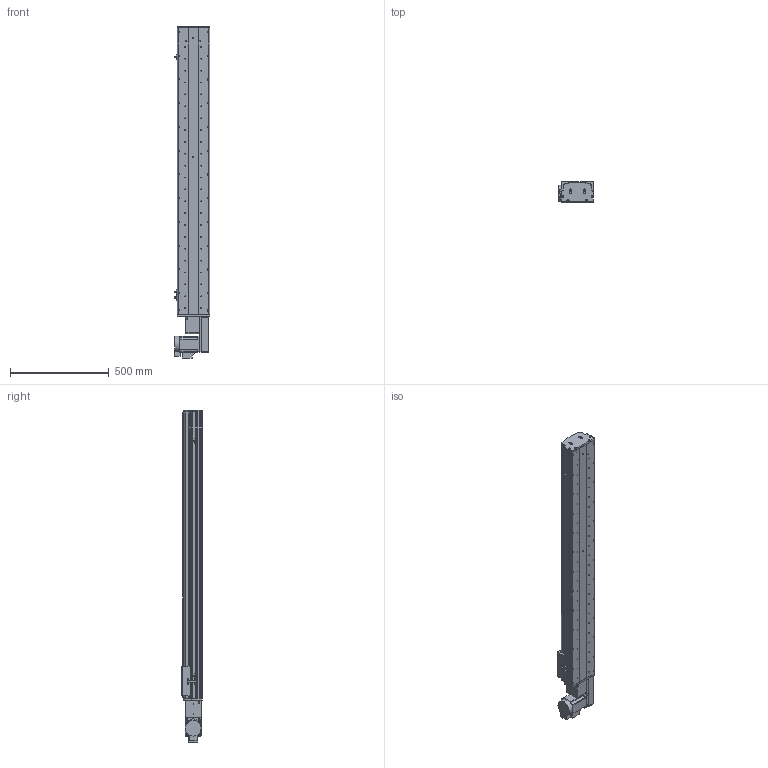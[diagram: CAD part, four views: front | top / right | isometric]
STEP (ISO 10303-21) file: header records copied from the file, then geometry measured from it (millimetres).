
FILE_DESCRIPTION (( 'STEP AP214' ), '1' );
FILE_NAME ('KSD165B-S1200-MRB-CM.STEP', '2017-10-16T09:01:59', ( '微软用户' ), ( '微软中国' ), 'SwSTEP 2.0', 'SolidWorks 2014', '' );
FILE_SCHEMA (( 'AUTOMOTIVE_DESIGN' ));
Length unit declared in the file: millimetre
Products named in the file (17): 165宽马达安装板同步带右; U倰嫖萇假蚾璃; U倰嫖萇EEㄜSX672; 覜茼え68遵圉猾敕; KSD165模组-同步带-防撞垫2; KSD165模组同步带-防撞垫1; KSD165耀郪-ヶ傷啣1-肮祭湍; KSD165模组-后端板1-同步带; KSD165模组-同步带滑动座-最新版; KSD165B-S1200-MRB-CM; HTPA26S5M250-A-H8 750W萇儂蚚; HTPA26S5M250-A-H8 400W萇儂蚚 ; 130宽模组马达安装板连板左右折同步带; 130宽模组保护罩上下左右折-同步带; KSD165模组-同步带防尘盖1-1200行程; KSD165模组同步带底板-1200行程; 拸秶雄ん750W侜督萇儂
Assembly tree (20 placements, depth 2):
  KSD165B-S1200-MRB-CM
    KSD165模组-同步带滑动座-最新版
    KSD165模组-后端板1-同步带
    KSD165耀郪-ヶ傷啣1-肮祭湍
    KSD165模组同步带-防撞垫1
    KSD165模组-同步带-防撞垫2
    覜茼え68遵圉猾敕
    U倰嫖萇EEㄜSX672  x3
    U倰嫖萇假蚾璃  x3
    165宽马达安装板同步带右
    拸秶雄ん750W侜督萇儂
    KSD165模组同步带底板-1200行程
    KSD165模组-同步带防尘盖1-1200行程
    130宽模组保护罩上下左右折-同步带
    130宽模组马达安装板连板左右折同步带
    HTPA26S5M250-A-H8 400W萇儂蚚 
    HTPA26S5M250-A-H8 750W萇儂蚚
Bounding box: 178.7 x 104 x 1677.5 mm (x, y, z)
Volume: 8817096.2 mm3; surface area: 2054163.4 mm2
Topology: 21 solids, 21 shells, 2007 faces, 5676 edges, 3708 vertices
Faces by surface type: cylinder 1303, plane 592, cone 112
Entity records: 65620 total; most frequent: CARTESIAN_POINT 13468, DIRECTION 10744, ORIENTED_EDGE 10012, EDGE_CURVE 5006, AXIS2_PLACEMENT_3D 4222, VERTEX_POINT 3300, CIRCLE 2412, LINE 2300
